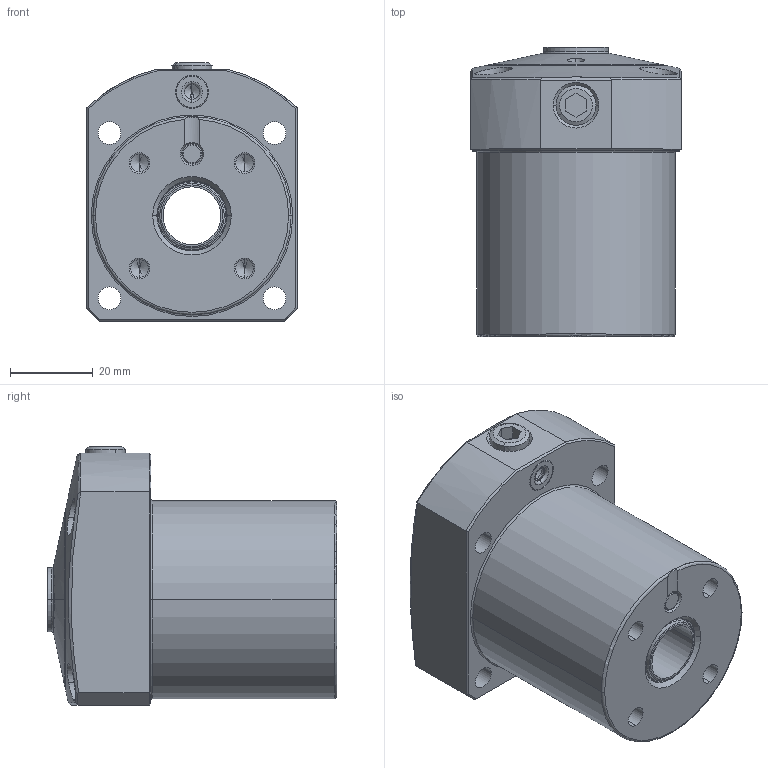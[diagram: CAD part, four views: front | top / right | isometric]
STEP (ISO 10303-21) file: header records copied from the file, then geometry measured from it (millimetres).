
FILE_DESCRIPTION(/* description */ (''),/* implementation_level */ '2;1');
FILE_NAME(/* name */ 'FNE48-C.stp',/* time_stamp */ '2025-10-27T14:05:52+08:00',/* author */ (''),/* organization */ (''),/* preprocessor_version */ 'ST-DEVELOPER v16.7',/* originating_system */ 'SIEMENS PLM Software NX 12.0',/* authorisation */ '');
FILE_SCHEMA (('AUTOMOTIVE_DESIGN { 1 0 10303 214 3 1 1 1 }'));
Length unit declared in the file: millimetre
Products named in the file (5): FNE-48-04; FNE-48-03; FNE-48-02; FNE-48-01; WNA2003-G-D_step
Assembly tree (4 placements, depth 2):
  WNA2003-G-D_step
    FNE-48-01
    FNE-48-02
    FNE-48-03
    FNE-48-04
Bounding box: 51 x 70.1 x 62.5 mm (x, y, z)
Volume: 128436.6 mm3; surface area: 22822.5 mm2
Topology: 4 solids, 4 shells, 192 faces, 428 edges, 250 vertices
Faces by surface type: cylinder 67, cone 56, plane 41, torus 22, bspline 6
Entity records: 6408 total; most frequent: CARTESIAN_POINT 2050, DIRECTION 949, ORIENTED_EDGE 824, EDGE_CURVE 412, AXIS2_PLACEMENT_3D 394, VERTEX_POINT 250, EDGE_LOOP 226, CIRCLE 203
